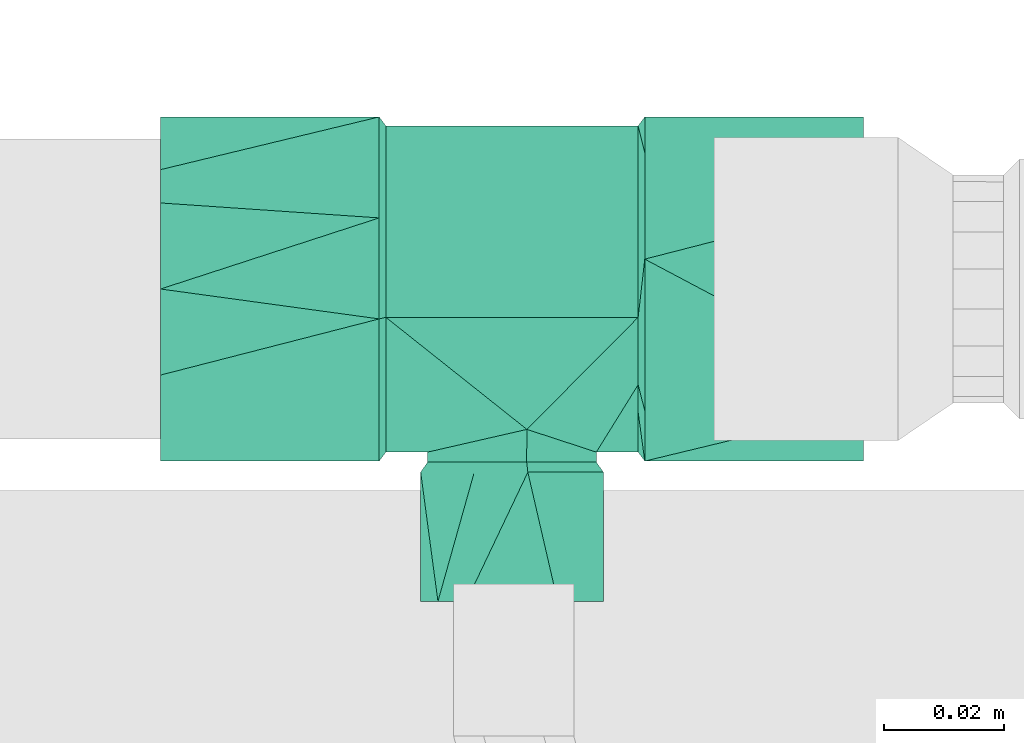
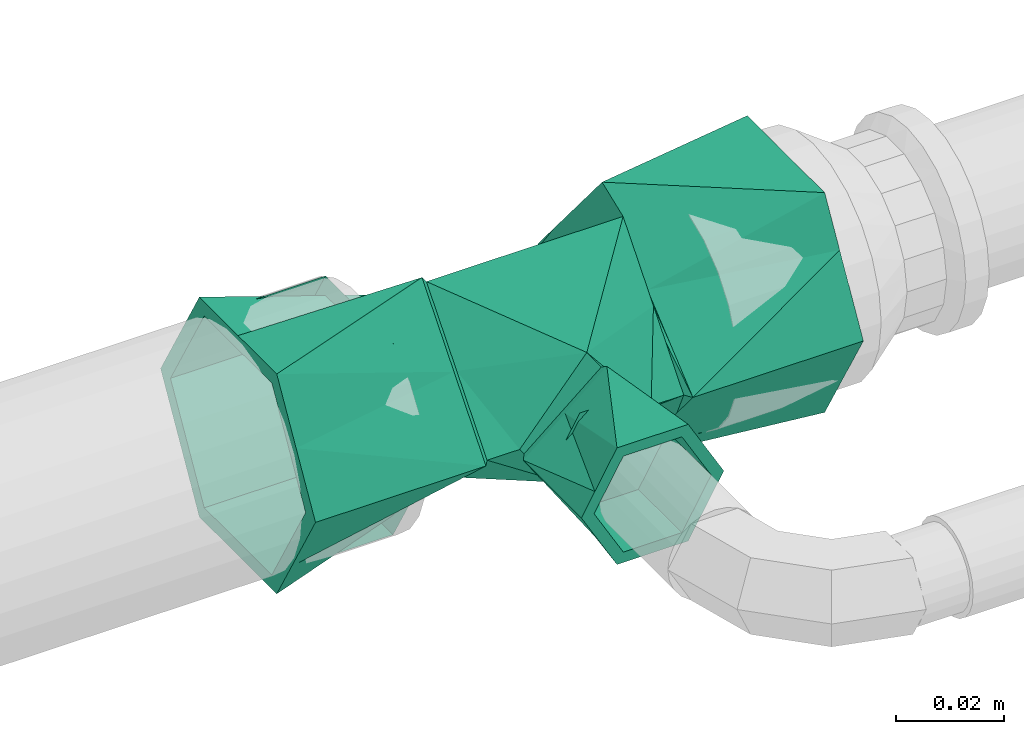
# One storey, part 137 of 166: 1 flow fitting.
"""IFC2X3 building model written with IfcOpenShell, lengths in metres."""

from ifc_helpers import new_model, entity, si_unit, converted_unit, direction, frame, origin, place, context, subcontext, project, spatial, faceted_brep, source, transform, mapped, material, type_object, type_shapes, element, save


model = new_model("IFC2X3")

# Units and contexts
model_context = context("Model", 3, precision=1e-05, world=origin(), true_north=direction((6.123233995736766e-17, 1.0)))
body_context = subcontext(model_context, "Body", "Model", "MODEL_VIEW")
ifc_project = project(units=[si_unit("LENGTHUNIT", "METRE"), converted_unit("PLANEANGLEUNIT", "DEGREE", entity("IfcPlaneAngleMeasure", 0.017453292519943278), si_unit("PLANEANGLEUNIT", "RADIAN"), dimensions=[0, 0, 0, 0, 0, 0, 0]), si_unit("AREAUNIT", "SQUARE_METRE")], contexts=[model_context])

# Site, building, storey
site_placement = place(None, origin())
site = spatial("IfcSite", under=ifc_project, at=site_placement, Name="Default", CompositionType="ELEMENT")
building_placement = place(site_placement, origin())
building = spatial("IfcBuilding", under=site, at=building_placement, Name="CASA DE ACOLHIDA PARA IDOSOS", CompositionType="ELEMENT")
storey_placement = place(building_placement, frame((0.0, 0.0, -1.7499999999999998)))
storey = spatial("IfcBuildingStorey", under=building, at=storey_placement, Name="IMPLANTAÇÃO DRENAGEM", CompositionType="ELEMENT", Elevation=-1.7499999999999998)

# Flow fitting
ifc_material = material(Name="PVC Branco")
pipe_fitting_type = type_object("IfcPipeFittingType", Name="AF_Roscavel_Te_Reducao:Standard", PredefinedType="NOTDEFINED", material=ifc_material)
shared_shape = source(origin(), body_context, "Body", "Brep", [
    faceted_brep([(-0.022099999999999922, 0.022730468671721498, -0.007053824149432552), (-0.022099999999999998, 0.028649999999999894, 0.0), (-0.021, 0.027149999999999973, 0.0), (-0.02099999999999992, 0.019184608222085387, -0.006684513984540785), (-0.020999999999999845, 0.011219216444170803, -0.013369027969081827), (-0.022099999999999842, 0.0168109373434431, -0.014107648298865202), (-0.020999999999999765, 0.0032538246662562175, -0.02005354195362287), (-0.022099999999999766, 0.010891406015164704, -0.02116147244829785), (-0.020999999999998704, -0.015930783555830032, -0.013369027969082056), (-0.022099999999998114, -0.020244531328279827, -0.007053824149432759), (-0.022099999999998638, -0.01183906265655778, -0.01410764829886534), (-0.020999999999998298, -0.02051095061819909, -0.007911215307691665), (-0.02209999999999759, -0.02865000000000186, 0.0), (-0.020999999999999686, -0.004711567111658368, -0.02673805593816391), (-0.02209999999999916, -0.0034335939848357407, -0.021161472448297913), (-0.022099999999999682, 0.004971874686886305, -0.028215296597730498), (-0.020999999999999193, -0.010321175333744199, -0.02005354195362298), (-0.02099999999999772, -0.027150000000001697, 0.0), (-0.02210000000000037, -0.022732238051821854, 0.007053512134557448), (-0.021000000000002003, -0.019182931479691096, 0.006684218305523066), (-0.021000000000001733, -0.011215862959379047, 0.013368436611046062), (-0.022100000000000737, -0.0168144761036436, 0.014107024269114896), (-0.021000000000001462, -0.0032487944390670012, 0.020052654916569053), (-0.022100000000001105, -0.010896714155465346, 0.021160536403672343), (-0.022100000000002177, 0.020242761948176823, 0.007053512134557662), (-0.02100000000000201, 0.021542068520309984, 0.006684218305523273), (-0.022100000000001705, 0.0034282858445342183, 0.021160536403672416), (-0.021000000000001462, 0.010326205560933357, 0.020052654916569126), (-0.022100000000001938, 0.01183552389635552, 0.014107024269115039), (-0.021000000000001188, 0.004718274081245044, 0.02673687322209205), (-0.022100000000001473, -0.004978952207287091, 0.028214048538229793), (-0.021000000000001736, 0.01593413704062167, 0.013368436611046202), (-0.02099999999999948, 0.018449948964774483, 0.010369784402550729), (0.021, 0.027149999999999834, 0.0), (0.021000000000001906, 0.004718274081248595, 0.026736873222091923), (0.021000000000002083, 0.010326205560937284, 0.02005265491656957), (0.021000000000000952, 0.015934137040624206, 0.013368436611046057), (0.021000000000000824, 0.020511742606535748, 0.007912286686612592), (0.021, -0.027150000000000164, 0.0), (0.0024774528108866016, -0.023369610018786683, 0.013819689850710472), (0.008258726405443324, -0.025259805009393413, 0.006909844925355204), (0.014040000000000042, -0.027150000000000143, 0.0), (-0.014039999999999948, -0.02715000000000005, 0.0), (-0.008913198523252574, -0.02597661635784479, 0.004289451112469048), (-0.0057812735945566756, -0.02525980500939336, 0.0069098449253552), (0.021000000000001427, -0.01918293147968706, 0.006684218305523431), (0.021000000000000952, -0.011215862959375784, 0.013368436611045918), (0.02100000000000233, -0.00324879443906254, 0.020052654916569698), (0.02099999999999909, 0.019607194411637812, -0.006329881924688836), (0.020999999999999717, 0.011219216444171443, -0.013369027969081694), (0.02099999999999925, 0.003253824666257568, -0.02005354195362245), (0.020999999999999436, -0.004711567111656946, -0.02673805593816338), (-0.0024814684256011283, -0.023370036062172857, -0.013818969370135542), (0.020999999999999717, -0.015930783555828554, -0.013369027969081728), (0.008912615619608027, -0.025976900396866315, -0.004288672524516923), (0.005779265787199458, -0.025260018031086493, -0.006909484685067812), (-0.00826073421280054, -0.025260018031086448, -0.006909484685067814), (0.020999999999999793, -0.020510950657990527, -0.007911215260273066), (0.020999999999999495, -0.010321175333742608, -0.020053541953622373), (0.02210000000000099, 0.01681093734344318, 0.014107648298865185), (0.022100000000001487, 0.01089140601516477, 0.021161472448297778), (0.022100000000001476, -0.012730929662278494, 0.013359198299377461), (0.022100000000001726, -0.003879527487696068, 0.020787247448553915), (0.022100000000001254, -0.020690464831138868, 0.006679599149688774), (0.022100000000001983, 0.004971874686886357, 0.02821529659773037), (0.0221, 0.028650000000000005, 0.0), (0.022100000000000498, 0.022730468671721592, 0.007053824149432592), (0.022100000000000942, -0.011839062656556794, 0.014107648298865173), (0.022100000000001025, -0.02864999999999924, 0.0), (0.022099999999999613, -0.009809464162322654, -0.022456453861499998), (0.022099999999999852, -0.021644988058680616, -0.008349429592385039), (0.02209999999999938, 0.0034282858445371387, -0.02116053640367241), (0.022099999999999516, -0.004978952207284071, -0.028214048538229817), (0.02209999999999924, 0.011835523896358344, -0.014107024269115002), (0.0220999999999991, 0.02024276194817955, -0.0070535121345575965), (0.02209999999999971, -0.014639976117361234, -0.01669885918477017), (0.022100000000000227, -0.016814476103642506, -0.014107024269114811), (-0.058500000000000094, -0.014325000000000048, -0.024811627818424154), (-0.058500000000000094, -0.025, 0.0), (-0.058500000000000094, -0.01997114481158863, -0.00871023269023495), (-0.0585000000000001, -0.019870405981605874, -0.015206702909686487), (-0.058500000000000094, -0.012500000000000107, -0.021650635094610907), (-0.058500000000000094, 0.0, -0.02165063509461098), (-0.058500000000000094, 0.012499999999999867, -0.021650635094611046), (-0.0585000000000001, 0.0, -0.024811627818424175), (-0.058500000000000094, -0.028650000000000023, 0.0), (-0.0585000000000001, -0.018750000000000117, 0.01082531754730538), (-0.058500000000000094, -0.012500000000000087, 0.021650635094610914), (-0.0585000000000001, -0.021487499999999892, 0.012405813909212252), (-0.058500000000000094, -0.014324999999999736, 0.02481162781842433), (-0.058500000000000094, 0.0, 0.021650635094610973), (-0.058500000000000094, 0.012499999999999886, 0.021650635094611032), (-0.0585000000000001, 0.0, 0.02481162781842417), (-0.058500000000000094, 0.014325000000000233, 0.024811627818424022), (-0.0585000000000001, 0.019870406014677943, 0.015206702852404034), (-0.058500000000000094, 0.02864999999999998, 0.0), (-0.058500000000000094, 0.019971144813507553, 0.00871023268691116), (-0.058500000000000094, 0.025, 0.0), (-0.0585000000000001, 0.021487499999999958, -0.012405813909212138), (-0.058500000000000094, 0.014324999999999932, -0.0248116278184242), (-0.058500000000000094, 0.018749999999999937, -0.010825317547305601), (0.0585000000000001, 0.021487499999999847, 0.012405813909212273), (0.058500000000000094, 0.028650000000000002, 0.0), (0.058500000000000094, -0.028650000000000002, 0.0), (0.0585000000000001, -0.01987040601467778, 0.015206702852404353), (0.0585000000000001, -0.021487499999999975, -0.012405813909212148), (0.0585000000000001, 0.019870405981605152, -0.015206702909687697), (0.058500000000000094, 0.014325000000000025, -0.024811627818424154), (0.058500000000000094, 0.024999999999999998, 0.0), (0.058500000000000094, 0.019971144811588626, -0.00871023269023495), (0.058500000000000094, 0.012500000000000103, -0.021650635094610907), (0.058500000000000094, 0.0, -0.02165063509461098), (0.058500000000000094, -0.012499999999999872, -0.021650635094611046), (0.0585000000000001, 0.0, -0.024811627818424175), (0.0585000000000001, 0.01875000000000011, 0.01082531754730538), (0.058500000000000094, 0.012500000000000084, 0.021650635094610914), (0.058500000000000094, 0.014324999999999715, 0.02481162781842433), (0.058500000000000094, 0.0, 0.021650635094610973), (0.058500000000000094, -0.012499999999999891, 0.021650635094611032), (0.0585000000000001, 0.0, 0.02481162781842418), (0.058500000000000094, -0.014325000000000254, 0.024811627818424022), (0.058500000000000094, -0.019971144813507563, 0.00871023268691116), (0.058500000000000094, -0.025000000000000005, 0.0), (0.058500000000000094, -0.014324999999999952, -0.0248116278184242), (0.058500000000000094, -0.018749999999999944, -0.010825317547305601), (-0.032600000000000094, -0.025, 0.0), (-0.032600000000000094, -0.019971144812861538, 0.00871023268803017), (-0.032600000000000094, -0.012500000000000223, 0.021650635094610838), (-0.032600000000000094, 0.0, 0.021650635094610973), (-0.032600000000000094, 0.012499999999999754, 0.02165063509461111), (-0.032600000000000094, 0.018749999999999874, 0.010825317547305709), (-0.032600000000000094, 0.025, 0.0), (-0.032600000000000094, 0.019971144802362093, -0.008710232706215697), (-0.032600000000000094, 0.012500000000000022, -0.021650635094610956), (-0.032600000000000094, 0.0, -0.02165063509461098), (-0.032600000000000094, -0.012499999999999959, -0.021650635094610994), (-0.032600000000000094, -0.018749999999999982, -0.010825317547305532), (0.03260000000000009, -0.025, 0.0), (0.032600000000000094, -0.018749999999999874, 0.010825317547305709), (0.032600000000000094, -0.012499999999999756, 0.02165063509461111), (0.032600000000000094, 0.0, 0.021650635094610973), (0.032600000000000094, 0.012500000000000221, 0.021650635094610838), (0.032600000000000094, 0.019971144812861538, 0.00871023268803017), (0.032600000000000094, 0.025, 0.0), (0.032600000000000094, 0.018749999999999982, -0.010825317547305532), (0.032600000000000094, 0.012499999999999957, -0.021650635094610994), (0.032600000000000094, 0.0, -0.02165063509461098), (0.032600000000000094, -0.012500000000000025, -0.021650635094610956), (0.032600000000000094, -0.019971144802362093, -0.008710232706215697), (0.012500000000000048, -0.03589999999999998, 0.0), (0.006250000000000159, -0.035899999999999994, 0.010825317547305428), (-0.0062499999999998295, -0.03590000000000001, 0.010825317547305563), (-0.012499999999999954, -0.03590000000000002, 0.0), (-0.006249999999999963, -0.03590000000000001, -0.010825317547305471), (0.006250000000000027, -0.035899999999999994, -0.01082531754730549), (0.012500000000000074, -0.05199999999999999, 0.0), (0.006250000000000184, -0.052, 0.010825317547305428), (-0.006249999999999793, -0.05200000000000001, 0.01082531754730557), (-0.01249999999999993, -0.052000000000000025, 0.0), (-0.006249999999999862, -0.05200000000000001, -0.010825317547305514), (0.006250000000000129, -0.052, -0.010825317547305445), (-0.011620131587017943, -0.028800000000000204, -0.0028835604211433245), (-0.01403999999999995, -0.02880000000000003, 0.0), (-0.002436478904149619, -0.028800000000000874, -0.013826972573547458), (-0.008238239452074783, -0.02880000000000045, -0.006913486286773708), (0.0030428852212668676, -0.028800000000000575, -0.009228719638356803), (0.014040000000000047, -0.02879999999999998, 0.0), (0.008541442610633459, -0.02880000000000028, -0.004614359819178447), (0.005801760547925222, -0.02880000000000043, -0.006913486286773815), (0.011620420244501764, -0.028799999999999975, 0.002883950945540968), (0.002439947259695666, -0.028799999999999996, 0.01382636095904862), (0.008239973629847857, -0.028799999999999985, 0.00691318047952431), (-0.0030421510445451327, -0.028800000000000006, 0.00922698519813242), (-0.008541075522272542, -0.028800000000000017, 0.004613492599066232), (-0.005800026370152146, -0.028800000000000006, 0.006913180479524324), (0.0026415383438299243, -0.030500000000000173, 0.01496870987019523), (0.008920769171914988, -0.03050000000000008, 0.007484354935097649), (0.010065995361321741, -0.030500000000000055, 0.006119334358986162), (0.015200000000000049, -0.03049999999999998, 0.0), (-0.015199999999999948, -0.03050000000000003, 0.0), (-0.006279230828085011, -0.0305000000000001, 0.007484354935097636), (-0.0026377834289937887, -0.030500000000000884, -0.01496937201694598), (-0.008918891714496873, -0.03050000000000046, -0.007484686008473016), (-0.010065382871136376, -0.030500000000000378, -0.006118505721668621), (0.006281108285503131, -0.03050000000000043, -0.007484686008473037), (0.007600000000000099, -0.052, -0.01316358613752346), (0.012327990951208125, -0.05199999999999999, -0.004974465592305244), (0.0, -0.052000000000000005, -0.01316358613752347), (0.015200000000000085, -0.051999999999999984, 0.0), (0.011400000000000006, -0.05199999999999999, 0.00658179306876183), (0.007599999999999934, -0.052, 0.013163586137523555), (0.0, -0.052000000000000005, 0.013163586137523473), (-0.007600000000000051, -0.05200000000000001, 0.01316358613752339), (-0.012327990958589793, -0.052000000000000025, 0.00497446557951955), (-0.015199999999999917, -0.05200000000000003, 0.0), (-0.011399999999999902, -0.052000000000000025, -0.006581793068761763), (-0.007599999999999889, -0.05200000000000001, -0.013163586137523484)], [[[0, 1, 2]], [[3, 4, 5]], [[6, 7, 4]], [[8, 9, 10]], [[11, 12, 9]], [[13, 14, 15]], [[14, 16, 10]], [[16, 14, 13]], [[2, 3, 0]], [[9, 8, 11]], [[11, 17, 12]], [[7, 6, 15]], [[6, 13, 15]], [[5, 4, 7]], [[16, 8, 10]], [[3, 5, 0]], [[18, 12, 17]], [[19, 20, 21]], [[22, 23, 20]], [[1, 24, 25]], [[25, 2, 1]], [[26, 27, 28]], [[29, 26, 30]], [[27, 26, 29]], [[17, 19, 18]], [[23, 22, 30]], [[24, 28, 31]], [[22, 29, 30]], [[21, 20, 23]], [[27, 31, 28]], [[19, 21, 18]], [[24, 31, 32, 25]], [[33, 2, 25, 32, 31, 27, 29, 34, 35, 36, 37]], [[38, 39, 40, 41]], [[20, 42, 43, 44, 39]], [[39, 38, 45, 46]], [[20, 39, 46]], [[34, 29, 22, 20, 46, 47]], [[42, 20, 19, 17]], [[4, 3, 2, 33, 48, 49, 50, 51, 13, 6]], [[51, 52, 13]], [[53, 41, 54, 55, 52]], [[8, 52, 56, 42]], [[42, 17, 11, 8]], [[41, 53, 57, 38]], [[52, 51, 58, 53]], [[52, 8, 16, 13]], [[36, 35, 59, 37]], [[34, 60, 35]], [[46, 45, 61]], [[47, 46, 62]], [[38, 63, 45]], [[64, 34, 47]], [[65, 33, 66]], [[60, 34, 64]], [[46, 61, 67, 62]], [[64, 47, 62]], [[33, 37, 66]], [[37, 59, 66]], [[63, 38, 68]], [[63, 61, 45]], [[60, 59, 35]], [[51, 69, 58]], [[68, 38, 70]], [[51, 71, 72]], [[73, 49, 74]], [[75, 53, 58]], [[33, 65, 48]], [[50, 73, 71]], [[53, 75, 76, 70]], [[48, 74, 49]], [[73, 50, 49]], [[51, 50, 71]], [[38, 57, 53, 70]], [[48, 65, 74]], [[69, 51, 72]], [[69, 75, 58]], [[77, 78, 79]], [[78, 77, 80]], [[77, 79, 81]], [[77, 81, 82]], [[77, 82, 83]], [[83, 84, 77]], [[78, 80, 85]], [[85, 86, 78]], [[85, 87, 86]], [[87, 85, 88]], [[87, 88, 89]], [[89, 90, 87]], [[89, 91, 90]], [[91, 89, 92]], [[91, 92, 93]], [[91, 93, 94]], [[91, 94, 95]], [[95, 96, 91]], [[95, 97, 96]], [[97, 95, 98]], [[97, 98, 99]], [[99, 83, 100]], [[83, 99, 84]], [[99, 100, 97]], [[28, 94, 93]], [[94, 28, 24, 1]], [[1, 95, 94]], [[65, 101, 102]], [[12, 88, 85]], [[68, 103, 104]], [[89, 21, 23, 30]], [[21, 89, 88]], [[88, 12, 18, 21]], [[92, 30, 26, 28]], [[30, 92, 89]], [[28, 93, 92]], [[10, 80, 77]], [[80, 10, 9, 12]], [[12, 85, 80]], [[68, 105, 103]], [[1, 98, 95]], [[65, 102, 106]], [[99, 5, 7, 15]], [[5, 99, 98]], [[98, 1, 0, 5]], [[15, 77, 84, 99]], [[77, 15, 14, 10]], [[107, 108, 109]], [[108, 107, 106]], [[107, 109, 110]], [[107, 110, 111]], [[107, 111, 112]], [[112, 113, 107]], [[108, 106, 102]], [[102, 114, 108]], [[102, 115, 114]], [[115, 102, 101]], [[115, 101, 116]], [[116, 117, 115]], [[116, 118, 117]], [[118, 116, 119]], [[118, 119, 120]], [[118, 120, 104]], [[118, 104, 103]], [[103, 121, 118]], [[103, 122, 121]], [[122, 103, 105]], [[122, 105, 123]], [[123, 112, 124]], [[112, 123, 113]], [[123, 124, 122]], [[67, 104, 120]], [[104, 67, 61, 63, 68]], [[116, 59, 60, 64]], [[59, 116, 101]], [[101, 65, 66, 59]], [[64, 120, 119, 116]], [[120, 64, 62, 67]], [[73, 106, 107]], [[106, 73, 74, 65]], [[123, 76, 75, 69, 72]], [[76, 123, 105]], [[105, 68, 70, 76]], [[113, 72, 71, 73]], [[72, 113, 123]], [[73, 107, 113]], [[125, 126, 127, 128, 129, 130, 131, 132, 133, 134, 135, 136]], [[87, 127, 126, 125, 78, 86]], [[137, 138, 139, 118, 121, 122]], [[129, 128, 127, 87, 90, 91]], [[139, 140, 141, 115, 117, 118]], [[131, 130, 129, 91, 96, 97]], [[115, 141, 142, 143, 108, 114]], [[83, 133, 132, 131, 97, 100]], [[143, 144, 145, 110, 109, 108]], [[135, 134, 133, 83, 82, 81]], [[145, 146, 147, 112, 111, 110]], [[125, 136, 135, 81, 79, 78]], [[112, 147, 148, 137, 122, 124]], [[143, 142, 141, 140, 139, 138, 137, 148, 147, 146, 145, 144]], [[149, 150, 151, 152, 153, 154]], [[155, 156, 150, 149]], [[156, 157, 151, 150]], [[157, 158, 152, 151]], [[158, 159, 153, 152]], [[159, 160, 154, 153]], [[160, 155, 149, 154]], [[42, 161, 162]], [[56, 163, 164, 161]], [[163, 56, 52]], [[165, 163, 52]], [[166, 167, 41]], [[55, 167, 168, 165]], [[55, 54, 41, 167]], [[165, 52, 55]], [[56, 161, 42]], [[41, 169, 166]], [[40, 170, 171, 169]], [[170, 40, 39]], [[172, 170, 39]], [[162, 173, 42]], [[44, 173, 174, 172]], [[44, 43, 42, 173]], [[172, 39, 44]], [[40, 169, 41]], [[175, 176, 177, 178, 166, 169, 171, 170]], [[170, 172, 174, 173, 162, 179, 180, 175]], [[181, 182, 183, 179, 162, 161, 164, 163]], [[163, 165, 168, 167, 166, 178, 184, 181]], [[185, 155, 160]], [[155, 185, 186]], [[185, 160, 159]], [[159, 187, 185]], [[155, 186, 188]], [[156, 155, 188]], [[156, 188, 189]], [[156, 189, 190]], [[156, 190, 157]], [[157, 190, 191]], [[157, 191, 192]], [[157, 192, 193]], [[157, 193, 194]], [[194, 158, 157]], [[158, 194, 195]], [[158, 195, 196]], [[196, 159, 158]], [[159, 196, 187]], [[180, 193, 192]], [[180, 179, 193]], [[179, 194, 193]], [[178, 189, 188]], [[175, 190, 176]], [[176, 190, 189]], [[189, 178, 177, 176]], [[180, 191, 175]], [[175, 191, 190]], [[180, 192, 191]], [[184, 186, 185]], [[184, 178, 186]], [[178, 188, 186]], [[179, 195, 194]], [[181, 196, 182]], [[182, 196, 195]], [[195, 179, 183, 182]], [[181, 185, 187, 196]], [[181, 184, 185]]]),
])
type_shapes(pipe_fitting_type, [shared_shape])
flow_fitting_placement = place(storey_placement, frame((7.0090511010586, 49.25494207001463, -0.19999999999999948), z_axis=(0.0, 0.0, -1.0), x_axis=(-1.0, 0.0, 0.0)))
element("IfcFlowFitting", 1, at=flow_fitting_placement, inside=storey, type_object=pipe_fitting_type, material=ifc_material, Name="AF_Roscavel_Te_Reducao:Standard", ObjectType="AF_Roscavel_Te_Reducao:Standard", context=body_context, shape_type="MappedRepresentation", body=[
    mapped(shared_shape, transform((0.0, 0.0, 0.0), scale=1.0)),
])

save(model, "model.ifc")
